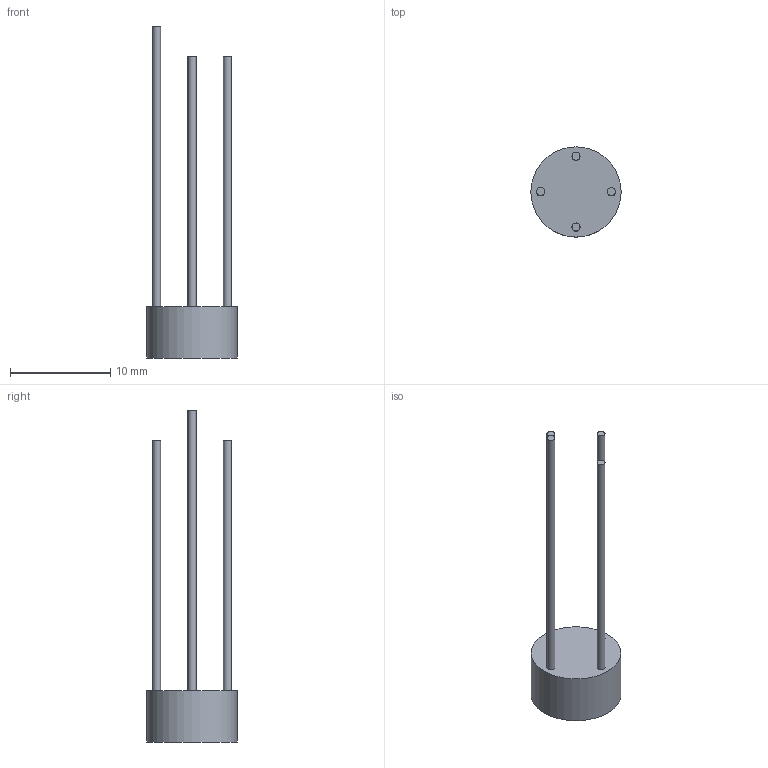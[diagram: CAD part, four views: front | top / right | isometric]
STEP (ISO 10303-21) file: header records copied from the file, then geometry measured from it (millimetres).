
FILE_DESCRIPTION(/* description */ (''),/* implementation_level */ '2;1');
FILE_NAME(/* name */ 'P19-Rund.stp',/* time_stamp */ '2018-02-08T10:54:02+01:00',/* author */ (''),/* organization */ (''),/* preprocessor_version */ 'ST-DEVELOPER v14',/* originating_system */ 'SIEMENS PLM Software NX 8.0',/* authorisation */ '');
FILE_SCHEMA (('CONFIG_CONTROL_DESIGN'));
Length unit declared in the file: millimetre
Products named in the file (1): 019003-00068test
Bounding box: 9 x 9 x 33.1 mm (x, y, z)
Volume: 376.2 mm3; surface area: 530.3 mm2
Topology: 1 solids, 1 shells, 11 faces, 16 edges, 11 vertices
Faces by surface type: plane 6, cylinder 5
Full cylindrical faces by diameter (mm): 0.8 x4, 9 x1
Entity records: 298 total; most frequent: DIRECTION 44, CARTESIAN_POINT 32, AXIS2_PLACEMENT_3D 22, EDGE_LOOP 20, ORIENTED_EDGE 20, FACE_BOUND 15, ADVANCED_FACE 11, VERTEX_POINT 10
